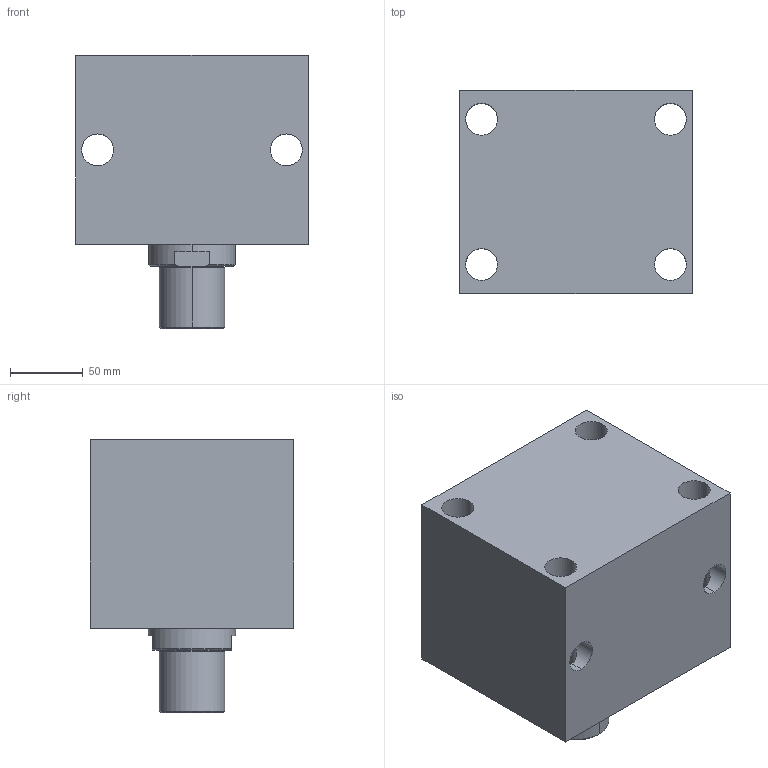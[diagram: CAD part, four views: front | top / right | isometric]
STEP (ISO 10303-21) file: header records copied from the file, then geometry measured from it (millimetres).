
FILE_DESCRIPTION (( 'STEP AP203' ), '1' );
FILE_NAME ('Block cylinder B01C-950M.STEP', '2022-07-09T18:21:26', ( '' ), ( '' ), 'SwSTEP 2.0', 'SolidWorks 2017', '' );
FILE_SCHEMA (( 'CONFIG_CONTROL_DESIGN' ));
Length unit declared in the file: millimetre
Products named in the file (3): Body_ 950M_50ST; Piston _950M_50sT; Block cylinder B01C-950M
Assembly tree (2 placements, depth 2):
  Block cylinder B01C-950M
    Body_ 950M_50ST
    Piston _950M_50sT
Bounding box: 160 x 140 x 188 mm (x, y, z)
Volume: 2777970.7 mm3; surface area: 205501.3 mm2
Topology: 2 solids, 2 shells, 359 faces, 978 edges, 640 vertices
Faces by surface type: bspline 162, plane 143, cylinder 46, cone 8
Entity records: 18157 total; most frequent: CARTESIAN_POINT 9936, ORIENTED_EDGE 1948, DIRECTION 1086, EDGE_CURVE 974, VERTEX_POINT 640, VECTOR 546, LINE 546, EDGE_LOOP 400
